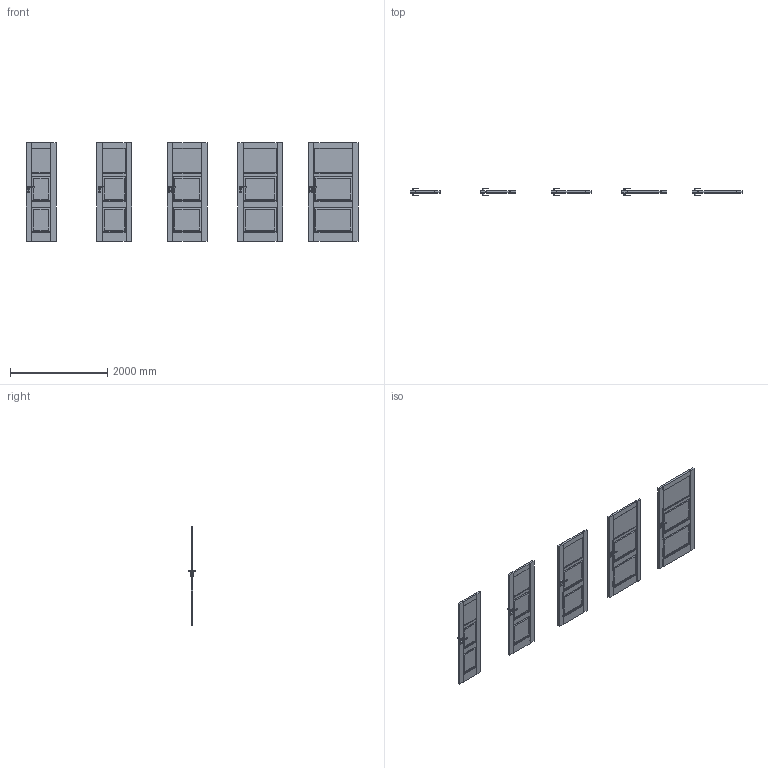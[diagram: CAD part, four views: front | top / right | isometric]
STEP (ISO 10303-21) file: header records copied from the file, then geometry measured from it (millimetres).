
FILE_DESCRIPTION(/* description */ (''),/* implementation_level */ '2;1');
FILE_NAME(/* name */ '050221_A_2-Skrzydło CORDOBA model małe okienko_ polska norma _PN__ bezprzylgowe..stp',/* time_stamp */ '2025-01-15T14:14:13+01:00',/* author */ (''),/* organization */ (''),/* preprocessor_version */ 'ST-DEVELOPER v16',/* originating_system */ 'SIEMENS PLM Software NX 11.0',/* authorisation */ '');
FILE_SCHEMA (('AUTOMOTIVE_DESIGN { 1 0 10303 214 3 1 1 1 }'));
Products named in the file (1): bkni79D08D404pqh
Bounding box: 6818 x 153.13 x 2017 mm (x, y, z)
Volume: 205570047.3 mm3; surface area: 19599198.9 mm2
Topology: 25 solids, 25 shells, 1900 faces, 5340 edges, 3280 vertices
Faces by surface type: plane 1300, cylinder 300, bspline 160, sphere 140
Entity records: 65259 total; most frequent: CARTESIAN_POINT 17401, ORIENTED_EDGE 10400, DIRECTION 9242, EDGE_CURVE 5200, LINE 4040, VECTOR 4040, VERTEX_POINT 3280, AXIS2_PLACEMENT_3D 2601
